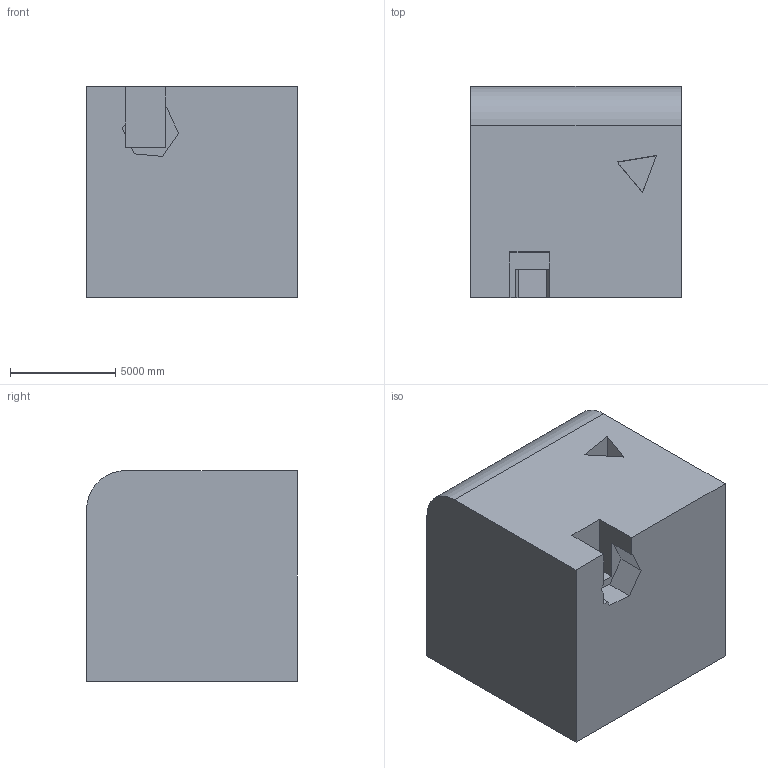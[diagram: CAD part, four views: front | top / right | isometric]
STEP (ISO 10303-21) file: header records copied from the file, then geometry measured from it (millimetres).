
FILE_DESCRIPTION (( 'STEP AP203' ), '1' );
FILE_NAME ('1601.STEP', '2022-08-18T16:04:40', ( 'user' ), ( '' ), 'SwSTEP 2.0', 'SolidWorks 2021', '' );
FILE_SCHEMA (( 'CONFIG_CONTROL_DESIGN' ));
Length unit declared in the file: centimetre
Products named in the file (1): 1601
Bounding box: 10000 x 10000 x 10000 mm (x, y, z)
Volume: 889189313440.3 mm3; surface area: 723166912 mm2
Topology: 1 solids, 1 shells, 42 faces, 117 edges, 78 vertices
Faces by surface type: plane 33, cylinder 9
Entity records: 1416 total; most frequent: CARTESIAN_POINT 274, ORIENTED_EDGE 234, DIRECTION 205, EDGE_CURVE 117, LINE 91, VECTOR 91, VERTEX_POINT 78, AXIS2_PLACEMENT_3D 57
